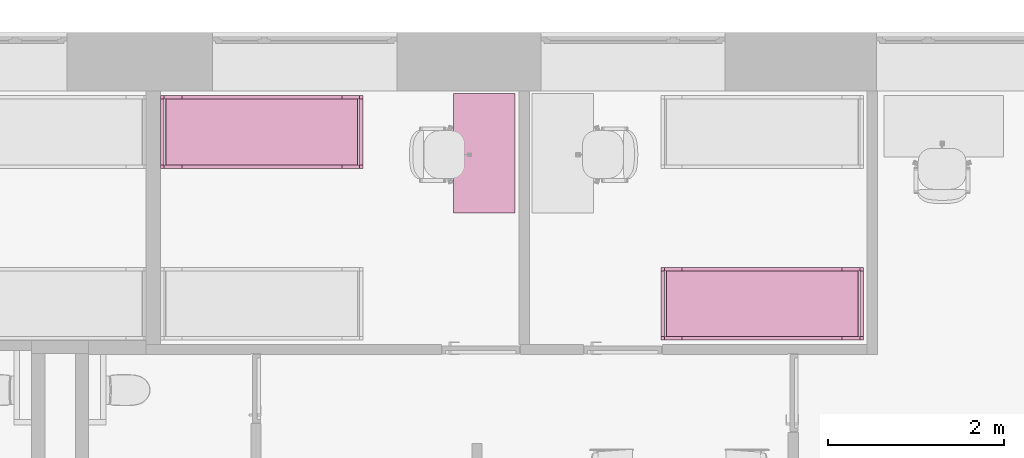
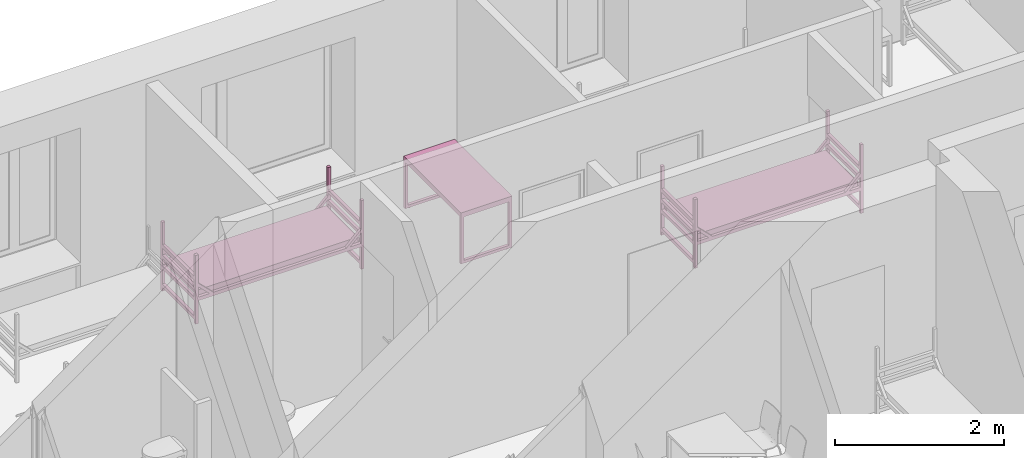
# One storey, part 38 of 46: 3 furnishings.
"""IFC2X3 building model written with IfcOpenShell, lengths in millimetres."""

from ifc_helpers import new_model, entity, si_unit, converted_unit, derived_unit, direction, frame, frame_2d, origin, origin_2d_with_axis, place, context, subcontext, project, spatial, polyline, circle_curve, parameter, trimmed, segment, composite_curve, rectangle, outline, extrude, faceted_brep, source, transform, mapped, material, material_list, type_object, type_shapes, element, save


model = new_model("IFC2X3")

# Units and contexts
model_context = context("Model", 3, precision=0.01, world=origin(), true_north=direction((6.12303176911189e-17, 1.0)))
body_context = subcontext(model_context, "Body", "Model", "MODEL_VIEW")
ifc_project = project(units=[si_unit("LENGTHUNIT", "METRE", prefix="MILLI"), si_unit("AREAUNIT", "SQUARE_METRE"), si_unit("VOLUMEUNIT", "CUBIC_METRE"), converted_unit("PLANEANGLEUNIT", "DEGREE", entity("IfcRatioMeasure", 0.0174532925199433), si_unit("PLANEANGLEUNIT", "RADIAN"), dimensions=[0, 0, 0, 0, 0, 0, 0]), si_unit("MASSUNIT", "GRAM", prefix="KILO"), derived_unit("MASSDENSITYUNIT", [(si_unit("MASSUNIT", "GRAM", prefix="KILO"), 1), (si_unit("LENGTHUNIT", "METRE"), -3)]), si_unit("TIMEUNIT", "SECOND"), si_unit("FREQUENCYUNIT", "HERTZ"), si_unit("THERMODYNAMICTEMPERATUREUNIT", "DEGREE_CELSIUS"), derived_unit("THERMALTRANSMITTANCEUNIT", [(si_unit("MASSUNIT", "GRAM", prefix="KILO"), 1), (si_unit("THERMODYNAMICTEMPERATUREUNIT", "KELVIN"), -1), (si_unit("TIMEUNIT", "SECOND"), -3)]), derived_unit("VOLUMETRICFLOWRATEUNIT", [(si_unit("LENGTHUNIT", "METRE"), 3), (si_unit("TIMEUNIT", "SECOND"), -1)]), si_unit("ELECTRICCURRENTUNIT", "AMPERE"), si_unit("ELECTRICVOLTAGEUNIT", "VOLT"), si_unit("POWERUNIT", "WATT"), si_unit("FORCEUNIT", "NEWTON", prefix="KILO"), si_unit("ILLUMINANCEUNIT", "LUX"), si_unit("LUMINOUSFLUXUNIT", "LUMEN"), si_unit("LUMINOUSINTENSITYUNIT", "CANDELA"), derived_unit("USERDEFINED", [(si_unit("MASSUNIT", "GRAM", prefix="KILO"), -1), (si_unit("LENGTHUNIT", "METRE"), -2), (si_unit("TIMEUNIT", "SECOND"), 3), (si_unit("LUMINOUSFLUXUNIT", "LUMEN"), 1)]), derived_unit("LINEARVELOCITYUNIT", [(si_unit("LENGTHUNIT", "METRE"), 1), (si_unit("TIMEUNIT", "SECOND"), -1)]), si_unit("PRESSUREUNIT", "PASCAL"), derived_unit("USERDEFINED", [(si_unit("LENGTHUNIT", "METRE"), -2), (si_unit("MASSUNIT", "GRAM", prefix="KILO"), 1), (si_unit("TIMEUNIT", "SECOND"), -2)]), derived_unit("LINEARFORCEUNIT", [(si_unit("MASSUNIT", "GRAM", prefix="KILO"), 1), (si_unit("LENGTHUNIT", "METRE"), 1), (si_unit("TIMEUNIT", "SECOND"), -2), (si_unit("LENGTHUNIT", "METRE"), -1)]), derived_unit("PLANARFORCEUNIT", [(si_unit("MASSUNIT", "GRAM", prefix="KILO"), 1), (si_unit("LENGTHUNIT", "METRE"), 1), (si_unit("TIMEUNIT", "SECOND"), -2), (si_unit("LENGTHUNIT", "METRE"), -2)])], contexts=[model_context])

# Site, building, storey, space
site_placement = place(None, origin())
site = spatial("IfcSite", under=ifc_project, at=site_placement, Name="Default", CompositionType="ELEMENT")
building_placement = place(site_placement, origin())
building = spatial("IfcBuilding", under=site, at=building_placement, Name="SMA ARH", CompositionType="ELEMENT")
storey_placement = place(building_placement, frame((0.0, 0.0, 9910.0)))
storey = spatial("IfcBuildingStorey", under=building, at=storey_placement, Name="4 Korrus", CompositionType="ELEMENT", Elevation=9909.9999999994)
space_1_placement = place(storey_placement, origin())
space_1 = spatial("IfcSpace", under=storey, at=space_1_placement, Name="4-30", CompositionType="ELEMENT", InteriorOrExteriorSpace="INTERNAL")

# Furnishing
ifc_material_1 = material(Name="Madrats")
furniture_type_1 = type_object("IfcFurnitureType", Name="Kasarmu voodi ühekordne 2308x830:Kasarmu voodi ühekordne 2308x830", material=ifc_material_1)
shared_shape_1 = source(origin(), body_context, "Body", "SweptSolid", [
    extrude(rectangle(XDim=39.9999999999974, YDim=750.000000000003, at=frame_2d((-1.35003119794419e-13, -2.8421709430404e-14), x_axis=(1.0, 0.0))), frame((1.68638457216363, -1226.7969571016, 55.0), z_axis=(0.0, 0.0, 1.0), x_axis=(0.0, -1.0, 0.0)), (0.0, 0.0, 1.0), 49.9999999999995),
    extrude(rectangle(XDim=39.9999999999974, YDim=750.000000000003, at=frame_2d((-1.35003119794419e-13, -2.8421709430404e-14), x_axis=(1.0, 0.0))), frame((1.68638457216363, -1226.7969571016, 325.0), z_axis=(0.0, 0.0, 1.0), x_axis=(0.0, -1.0, 0.0)), (0.0, 0.0, 1.0), 49.9999999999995),
    extrude(rectangle(XDim=39.9999999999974, YDim=750.000000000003, at=frame_2d((-1.35003119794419e-13, -2.8421709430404e-14), x_axis=(1.0, 0.0))), frame((1.68638457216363, -1226.7969571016, 475.0), z_axis=(0.0, 0.0, 1.0), x_axis=(0.0, -1.0, 0.0)), (0.0, 0.0, 1.0), 49.9999999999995),
    extrude(rectangle(XDim=39.9999999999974, YDim=750.000000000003, at=frame_2d((-1.35003119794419e-13, -2.8421709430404e-14), x_axis=(1.0, 0.0))), frame((1.68638457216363, -1226.7969571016, 625.0), z_axis=(0.0, 0.0, 1.0), x_axis=(0.0, -1.0, 0.0)), (0.0, 0.0, 1.0), 50.0000000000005),
    extrude(rectangle(XDim=39.9999999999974, YDim=750.000000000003, at=frame_2d((1.35003119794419e-13, -2.8421709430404e-14), x_axis=(1.0, 0.0))), frame((1.68638457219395, 1041.2030428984, 55.0), z_axis=(0.0, 0.0, 1.0), x_axis=(0.0, -1.0, 0.0)), (0.0, 0.0, 1.0), 50.0000000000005),
    extrude(rectangle(XDim=39.9999999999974, YDim=750.000000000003, at=frame_2d((1.35003119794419e-13, -2.8421709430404e-14), x_axis=(1.0, 0.0))), frame((1.68638457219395, 1041.2030428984, 325.0), z_axis=(0.0, 0.0, 1.0), x_axis=(0.0, -1.0, 0.0)), (0.0, 0.0, 1.0), 50.0000000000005),
    extrude(rectangle(XDim=39.9999999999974, YDim=750.000000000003, at=frame_2d((1.35003119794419e-13, -2.8421709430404e-14), x_axis=(1.0, 0.0))), frame((1.68638457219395, 1041.2030428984, 475.0), z_axis=(0.0, 0.0, 1.0), x_axis=(0.0, -1.0, 0.0)), (0.0, 0.0, 1.0), 50.0000000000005),
    extrude(rectangle(XDim=39.9999999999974, YDim=750.000000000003, at=frame_2d((1.35003119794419e-13, -2.8421709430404e-14), x_axis=(1.0, 0.0))), frame((1.68638457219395, 1041.2030428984, 625.0), z_axis=(0.0, 0.0, 1.0), x_axis=(0.0, -1.0, 0.0)), (0.0, 0.0, 1.0), 49.9999999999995),
    extrude(outline(composite_curve([segment(trimmed(circle_curve(frame_2d((1085.0, -40.0), x_axis=(1.0, 0.0)), 10.0), [parameter(270.0)], [parameter(0.0)], True, "PARAMETER"), True, "CONTINUOUS"), segment(polyline([(1095.0, -40.0), (1095.0, 40.0)]), True, "CONTINUOUS"), segment(trimmed(circle_curve(frame_2d((1085.0, 40.0), x_axis=(1.0, 0.0)), 10.0), [parameter(0.0)], [parameter(90.0000000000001)], True, "PARAMETER"), True, "CONTINUOUS"), segment(polyline([(1085.0, 50.0), (-1085.0, 50.0)]), True, "CONTINUOUS"), segment(trimmed(circle_curve(frame_2d((-1085.0, 40.0), x_axis=(1.0, 0.0)), 10.0), [parameter(90.0000000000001)], [parameter(180.0)], True, "PARAMETER"), True, "CONTINUOUS"), segment(polyline([(-1095.0, 40.0), (-1095.0, -40.0)]), True, "CONTINUOUS"), segment(trimmed(circle_curve(frame_2d((-1085.0, -40.0), x_axis=(1.0, 0.0)), 10.0), [parameter(180.0)], [parameter(270.0)], True, "PARAMETER"), True, "CONTINUOUS"), segment(polyline([(-1085.0, -50.0), (1085.0, -50.0)]), True, "CONTINUOUS")], self_intersect=False)), frame((-373.313615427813, -92.7969571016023, 405.0), z_axis=(1.0, 0.0, 0.0), x_axis=(0.0, -1.0, 0.0)), (0.0, 0.0, 1.0), 750.000000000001),
    extrude(outline(polyline([(-1114.0, -100.0), (1114.0, -100.0), (1114.0, -50.0), (961.59199141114, -50.0), (1114.0, 100.0), (1114.0, 150.0), (910.789321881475, -50.0), (-910.789321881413, -50.0), (-1114.0, 150.0), (-1114.0, 100.0), (-961.591991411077, -50.0), (-1114.0, -50.0), (-1114.0, -100.0)])), frame((-413.313615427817, -92.7969571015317, 430.0), z_axis=(1.0, 0.0, 0.0), x_axis=(0.0, 1.0, 0.0)), (0.0, 0.0, 1.0), 39.9999999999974),
    extrude(outline(polyline([(-1114.0, -100.0), (1114.0, -100.0), (1114.0, -50.0), (961.591991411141, -50.0), (1114.0, 100.0), (1114.0, 150.0), (910.789321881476, -50.0), (-910.789321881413, -50.0), (-1114.0, 150.0), (-1114.0, 100.0), (-961.591991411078, -50.0), (-1114.0, -50.0), (-1114.0, -100.0)])), frame((376.686384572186, -92.796957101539, 430.0), z_axis=(1.0, 0.0, 0.0), x_axis=(0.0, 1.0, 0.0)), (0.0, 0.0, 1.0), 39.9999999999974),
    extrude(rectangle(XDim=39.9999999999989, YDim=39.9999999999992, at=frame_2d((-6.75015598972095e-14, 0.0), x_axis=(1.0, 0.0))), frame((396.686384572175, -1226.79695710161, 0.0), z_axis=(0.0, 0.0, 1.0), x_axis=(0.0, 1.0, 0.0)), (0.0, 0.0, 1.0), 995.0),
    extrude(rectangle(XDim=39.9999999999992, YDim=39.9999999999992, at=frame_2d((-1.35003119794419e-13, 0.0), x_axis=(1.0, 0.0))), frame((396.686384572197, 1041.20304289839, 0.0), z_axis=(0.0, 0.0, 1.0), x_axis=(0.0, 1.0, 0.0)), (0.0, 0.0, 1.0), 995.0),
    extrude(rectangle(XDim=40.0000000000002, YDim=39.9999999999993, at=frame_2d((-1.35003119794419e-13, 0.0), x_axis=(1.0, 0.0))), frame((-393.313615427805, 1041.2030428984, 0.0), z_axis=(0.0, 0.0, 1.0), x_axis=(0.0, 1.0, 0.0)), (0.0, 0.0, 1.0), 995.0),
    extrude(rectangle(XDim=39.9999999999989, YDim=39.9999999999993, at=frame_2d((-6.75015598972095e-14, 0.0), x_axis=(1.0, 0.0))), frame((-393.313615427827, -1226.7969571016, 0.0), z_axis=(0.0, 0.0, 1.0), x_axis=(0.0, 1.0, 0.0)), (0.0, 0.0, 1.0), 995.0),
])
type_shapes(furniture_type_1, [shared_shape_1])
furnishing_1_placement = place(space_1_placement, frame((30319.2030428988, 10071.3136154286, 0.0), z_axis=(0.0, 0.0, 1.0), x_axis=(0.0, 1.0, 0.0)))
element("IfcFurnishingElement", 1, at=furnishing_1_placement, inside=space_1, type_object=furniture_type_1, material=ifc_material_1, Name="Kasarmu voodi ühekordne 2308x830:Kasarmu voodi ühekordne 2308x830", ObjectType="Kasarmu voodi ühekordne 2308x830:Kasarmu voodi ühekordne 2308x830", context=body_context, shape_type="MappedRepresentation", body=[
    mapped(shared_shape_1, transform((0.0, 0.0, 0.0), scale=1.0)),
])

# Space
space_2_placement = place(storey_placement, origin())
space_2 = spatial("IfcSpace", under=storey, at=space_2_placement, Name="4-29", CompositionType="ELEMENT", InteriorOrExteriorSpace="INTERNAL")

# Furnishings
furniture_type_2 = type_object("IfcFurnitureType", Name="Kasarmu voodi ühekordne 2308x830:Kasarmu voodi ühekordne 2308x830", material=ifc_material_1)
shared_shape_2 = source(origin(), body_context, "Body", "SweptSolid", [
    extrude(rectangle(XDim=750.000000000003, YDim=39.9999999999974, at=frame_2d((0.0, 1.35003119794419e-13), x_axis=(1.0, 0.0))), frame((1.68638457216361, 1226.7969571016, 55.0)), (0.0, 0.0, 1.0), 49.9999999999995),
    extrude(rectangle(XDim=750.000000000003, YDim=39.9999999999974, at=frame_2d((0.0, 1.35003119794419e-13), x_axis=(1.0, 0.0))), frame((1.68638457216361, 1226.7969571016, 325.0)), (0.0, 0.0, 1.0), 49.9999999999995),
    extrude(rectangle(XDim=750.000000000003, YDim=39.9999999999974, at=frame_2d((0.0, 1.35003119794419e-13), x_axis=(1.0, 0.0))), frame((1.68638457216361, 1226.7969571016, 475.0)), (0.0, 0.0, 1.0), 49.9999999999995),
    extrude(rectangle(XDim=750.000000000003, YDim=39.9999999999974, at=frame_2d((0.0, 1.35003119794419e-13), x_axis=(1.0, 0.0))), frame((1.68638457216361, 1226.7969571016, 625.0)), (0.0, 0.0, 1.0), 50.0000000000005),
    extrude(rectangle(XDim=750.000000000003, YDim=39.9999999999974, at=origin_2d_with_axis()), frame((1.68638457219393, -1041.2030428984, 55.0)), (0.0, 0.0, 1.0), 50.0000000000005),
    extrude(rectangle(XDim=750.000000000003, YDim=39.9999999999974, at=origin_2d_with_axis()), frame((1.68638457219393, -1041.2030428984, 325.0)), (0.0, 0.0, 1.0), 50.0000000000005),
    extrude(rectangle(XDim=750.000000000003, YDim=39.9999999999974, at=origin_2d_with_axis()), frame((1.68638457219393, -1041.2030428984, 475.0)), (0.0, 0.0, 1.0), 50.0000000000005),
    extrude(rectangle(XDim=750.000000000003, YDim=39.9999999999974, at=origin_2d_with_axis()), frame((1.68638457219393, -1041.2030428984, 625.0)), (0.0, 0.0, 1.0), 49.9999999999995),
    extrude(outline(composite_curve([segment(polyline([(-1085.0, -50.0), (1085.0, -50.0)]), True, "CONTINUOUS"), segment(trimmed(circle_curve(frame_2d((1085.0, -40.0), x_axis=(-1.0, 0.0)), 10.0), [parameter(90.0000000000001)], [parameter(180.0)], True, "PARAMETER"), True, "CONTINUOUS"), segment(polyline([(1095.0, -40.0), (1095.0, 40.0)]), True, "CONTINUOUS"), segment(trimmed(circle_curve(frame_2d((1085.0, 40.0), x_axis=(-1.0, 0.0)), 10.0), [parameter(180.0)], [parameter(270.0)], True, "PARAMETER"), True, "CONTINUOUS"), segment(polyline([(1085.0, 50.0), (-1085.0, 50.0)]), True, "CONTINUOUS"), segment(trimmed(circle_curve(frame_2d((-1085.0, 40.0), x_axis=(-1.0, 0.0)), 10.0), [parameter(270.0)], [parameter(0.0)], True, "PARAMETER"), True, "CONTINUOUS"), segment(polyline([(-1095.0, 40.0), (-1095.0, -40.0)]), True, "CONTINUOUS"), segment(trimmed(circle_curve(frame_2d((-1085.0, -40.0), x_axis=(-1.0, 0.0)), 10.0), [parameter(0.0)], [parameter(90.0000000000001)], True, "PARAMETER"), True, "CONTINUOUS")], self_intersect=False)), frame((-373.313615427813, 92.7969571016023, 405.0), z_axis=(1.0, 0.0, 0.0), x_axis=(0.0, -1.0, 0.0)), (0.0, 0.0, 1.0), 750.000000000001),
    extrude(outline(polyline([(-100.0, -1114.0), (-50.0, -1114.0), (-50.0, -961.591991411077), (100.0, -1114.0), (150.0, -1114.0), (-50.0, -910.789321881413), (-50.0, 910.789321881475), (150.0, 1114.0), (100.0, 1114.0), (-50.0, 961.591991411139), (-50.0, 1114.0), (-100.0, 1114.0), (-100.0, -1114.0)])), frame((-413.313615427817, 92.7969571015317, 430.0), z_axis=(1.0, 0.0, 0.0), x_axis=(0.0, 0.0, 1.0)), (0.0, 0.0, 1.0), 39.9999999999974),
    extrude(outline(polyline([(-100.0, -1114.0), (-50.0, -1114.0), (-50.0, -961.591991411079), (100.0, -1114.0), (150.0, -1114.0), (-50.0, -910.789321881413), (-50.0, 910.789321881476), (150.0, 1114.0), (100.0, 1114.0), (-50.0, 961.591991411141), (-50.0, 1114.0), (-100.0, 1114.0), (-100.0, -1114.0)])), frame((376.686384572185, 92.796957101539, 430.0), z_axis=(1.0, 0.0, 0.0), x_axis=(0.0, 0.0, 1.0)), (0.0, 0.0, 1.0), 39.9999999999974),
    extrude(rectangle(XDim=39.9999999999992, YDim=39.9999999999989, at=frame_2d((0.0, -6.75015598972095e-14), x_axis=(1.0, 0.0))), frame((396.686384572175, 1226.79695710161, 0.0), z_axis=(0.0, 0.0, 1.0), x_axis=(-1.0, 0.0, 0.0)), (0.0, 0.0, 1.0), 995.0),
    extrude(rectangle(XDim=39.9999999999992, YDim=39.9999999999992, at=origin_2d_with_axis()), frame((396.686384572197, -1041.20304289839, 0.0), z_axis=(0.0, 0.0, 1.0), x_axis=(-1.0, 0.0, 0.0)), (0.0, 0.0, 1.0), 995.0),
    extrude(rectangle(XDim=39.9999999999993, YDim=40.0000000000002, at=origin_2d_with_axis()), frame((-393.313615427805, -1041.2030428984, 0.0), z_axis=(0.0, 0.0, 1.0), x_axis=(-1.0, 0.0, 0.0)), (0.0, 0.0, 1.0), 995.0),
    extrude(rectangle(XDim=39.9999999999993, YDim=39.9999999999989, at=frame_2d((0.0, -6.75015598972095e-14), x_axis=(1.0, 0.0))), frame((-393.313615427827, 1226.7969571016, 0.0), z_axis=(0.0, 0.0, 1.0), x_axis=(-1.0, 0.0, 0.0)), (0.0, 0.0, 1.0), 995.0),
])
type_shapes(furniture_type_2, [shared_shape_2])
furnishing_2_placement = place(space_2_placement, frame((24803.796957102, 12030.0, 0.0), z_axis=(0.0, 0.0, 1.0), x_axis=(0.0, 1.0, 0.0)))
element("IfcFurnishingElement", 2, at=furnishing_2_placement, inside=space_2, type_object=furniture_type_2, material=ifc_material_1, Name="Kasarmu voodi ühekordne 2308x830:Kasarmu voodi ühekordne 2308x830", ObjectType="Kasarmu voodi ühekordne 2308x830:Kasarmu voodi ühekordne 2308x830", context=body_context, shape_type="MappedRepresentation", body=[
    mapped(shared_shape_2, transform((0.0, 0.0, 0.0), scale=1.0)),
])
ifc_material_2 = material(Name="<Unnamed>")
ifc_material_list = material_list([ifc_material_2, ifc_material_2])
furniture_type_3 = type_object("IfcFurnitureType", Name="kirjutuslaud 1360x700mm:kirjutuslaud 1360x700mm", material=ifc_material_list)
shared_shape_3 = source(origin(), body_context, "Body", "Brep", [
    faceted_brep([(680.0, 350.0, 720.0), (680.0, 350.0, 750.0), (680.0, -350.0, 750.0), (680.0, -350.0, 720.0), (-680.0, 350.0, 720.0), (-680.0, -350.0, 720.0), (-680.0, -350.0, 750.0), (-680.0, 350.0, 750.0)], [[[0, 1, 2, 3]], [[4, 5, 6, 7]], [[3, 5, 4, 0]], [[2, 6, 5, 3]], [[1, 7, 6, 2]], [[0, 4, 7, 1]]]),
    faceted_brep([(-640.0, 310.0, 680.0), (-640.0, 310.0, 720.0), (-640.0, -310.0, 720.0), (-640.0, -310.0, 680.0), (-680.0, 350.0, 720.0), (-680.0, 350.0, 10.0), (-680.0, -350.0, 10.0), (-680.0, -350.0, 720.0), (-680.0, -310.0, 680.0), (-680.0, -310.0, 50.0), (-680.0, 310.0, 50.0), (-680.0, 310.0, 680.0), (680.0, 350.0, 720.0), (680.0, 350.0, 10.0), (640.0, 350.0, 10.0), (640.0, 350.0, 680.0), (-640.0, 350.0, 680.0), (-640.0, 350.0, 10.0), (-640.0, -350.0, 10.0), (-640.0, -350.0, 680.0), (640.0, -350.0, 680.0), (640.0, -350.0, 10.0), (680.0, -350.0, 10.0), (680.0, -350.0, 720.0), (640.0, 310.0, 720.0), (640.0, -310.0, 720.0), (-640.0, -310.0, 50.0), (-640.0, 310.0, 50.0), (640.0, -310.0, 680.0), (640.0, 310.0, 680.0), (680.0, -310.0, 680.0), (680.0, 310.0, 680.0), (680.0, 310.0, 50.0), (680.0, -310.0, 50.0), (640.0, -310.0, 50.0), (640.0, 310.0, 50.0)], [[[0, 1, 2, 3]], [[4, 5, 6, 7], [8, 9, 10, 11]], [[4, 12, 13, 14, 15, 16, 17, 5]], [[18, 6, 5, 17]], [[6, 18, 19, 20, 21, 22, 23, 7]], [[2, 1, 24, 25], [23, 12, 4, 7]], [[26, 9, 8, 3]], [[27, 10, 9, 26]], [[0, 11, 10, 27]], [[3, 8, 11, 0]], [[28, 20, 19, 3]], [[25, 28, 3, 2]], [[1, 0, 29, 24]], [[12, 23, 22, 13], [30, 31, 32, 33]], [[21, 20, 28, 34, 35, 29, 15, 14]], [[22, 21, 14, 13]], [[33, 34, 28, 30]], [[32, 35, 34, 33]], [[31, 29, 35, 32]], [[30, 28, 29, 31]], [[28, 25, 24, 29]], [[15, 29, 0, 16]], [[17, 16, 0, 27, 26, 3, 19, 18]]], outer=[[True], [True, False], [True], [True], [True], [False, True], [True], [True], [True], [True], [True], [True], [True], [True, False], [True], [True], [True], [True], [True], [True], [True], [True], [True]]),
    faceted_brep([(-655.964885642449, 270.466136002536, 0.0), (-659.847171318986, 269.955023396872, 0.0), (-663.729456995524, 270.466136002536, 0.0), (-667.347171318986, 271.964642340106, 0.0), (-670.453773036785, 274.348421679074, 0.0), (-672.837552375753, 277.455023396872, 0.0), (-674.336058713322, 281.072737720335, 0.0), (-674.847171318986, 284.955023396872, 0.0), (-674.336058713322, 288.83730907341, 0.0), (-672.837552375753, 292.455023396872, 0.0), (-670.453773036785, 295.561625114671, 0.0), (-667.347171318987, 297.945404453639, 0.0), (-663.729456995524, 299.443910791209, 0.0), (-659.847171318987, 299.955023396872, 0.0), (-655.964885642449, 299.443910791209, 0.0), (-652.347171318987, 297.945404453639, 0.0), (-649.240569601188, 295.561625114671, 0.0), (-646.85679026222, 292.455023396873, 0.0), (-645.35828392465, 288.83730907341, 0.0), (-644.847171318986, 284.955023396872, 0.0), (-645.35828392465, 281.072737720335, 0.0), (-646.85679026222, 277.455023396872, 0.0), (-649.240569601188, 274.348421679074, 0.0), (-652.347171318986, 271.964642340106, 0.0), (-649.240569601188, 295.561625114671, 10.0), (-652.347171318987, 297.945404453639, 10.0), (-655.964885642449, 299.443910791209, 10.0), (-659.847171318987, 299.955023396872, 10.0), (-663.729456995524, 299.443910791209, 10.0), (-667.347171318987, 297.945404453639, 10.0), (-670.453773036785, 295.561625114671, 10.0), (-672.837552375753, 292.455023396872, 10.0), (-674.336058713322, 288.83730907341, 10.0), (-674.847171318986, 284.955023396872, 10.0), (-674.336058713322, 281.072737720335, 10.0), (-672.837552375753, 277.455023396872, 10.0), (-670.453773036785, 274.348421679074, 10.0), (-667.347171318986, 271.964642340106, 10.0), (-663.729456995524, 270.466136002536, 10.0), (-659.847171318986, 269.955023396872, 10.0), (-655.964885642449, 270.466136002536, 10.0), (-652.347171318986, 271.964642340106, 10.0), (-649.240569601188, 274.348421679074, 10.0), (-646.85679026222, 277.455023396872, 10.0), (-645.35828392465, 281.072737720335, 10.0), (-644.847171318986, 284.955023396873, 10.0), (-645.35828392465, 288.83730907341, 10.0), (-646.85679026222, 292.455023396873, 10.0)], [[[0, 1, 2, 3, 4, 5, 6, 7, 8, 9, 10, 11, 12, 13, 14, 15, 16, 17, 18, 19, 20, 21, 22, 23]], [[24, 25, 26, 27, 28, 29, 30, 31, 32, 33, 34, 35, 36, 37, 38, 39, 40, 41, 42, 43, 44, 45, 46, 47]], [[7, 33, 32, 8]], [[8, 32, 31, 9]], [[11, 10, 30, 29]], [[30, 10, 9, 31]], [[12, 11, 29, 28]], [[12, 28, 27, 13]], [[13, 27, 26, 14]], [[14, 26, 25, 15]], [[17, 16, 24, 47]], [[24, 16, 15, 25]], [[18, 17, 47, 46]], [[18, 46, 45, 19]], [[19, 45, 44, 20]], [[20, 44, 43, 21]], [[23, 22, 42, 41]], [[42, 22, 21, 43]], [[0, 23, 41, 40]], [[0, 40, 39, 1]], [[1, 39, 38, 2]], [[2, 38, 37, 3]], [[5, 4, 36, 35]], [[36, 4, 3, 37]], [[6, 5, 35, 34]], [[6, 34, 33, 7]]]),
    faceted_brep([(-649.240569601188, -274.348421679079, 10.0), (-652.347171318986, -271.964642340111, 10.0), (-655.964885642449, -270.466136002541, 10.0), (-659.847171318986, -269.955023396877, 10.0), (-663.729456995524, -270.466136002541, 10.0), (-667.347171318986, -271.964642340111, 10.0), (-670.453773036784, -274.348421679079, 10.0), (-672.837552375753, -277.455023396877, 10.0), (-674.336058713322, -281.07273772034, 10.0), (-674.847171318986, -284.955023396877, 10.0), (-674.336058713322, -288.837309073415, 10.0), (-672.837552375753, -292.455023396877, 10.0), (-670.453773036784, -295.561625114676, 10.0), (-667.347171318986, -297.945404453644, 10.0), (-663.729456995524, -299.443910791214, 10.0), (-659.847171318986, -299.955023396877, 10.0), (-655.964885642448, -299.443910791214, 10.0), (-652.347171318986, -297.945404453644, 10.0), (-649.240569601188, -295.561625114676, 10.0), (-646.85679026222, -292.455023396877, 10.0), (-645.35828392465, -288.837309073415, 10.0), (-644.847171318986, -284.955023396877, 10.0), (-645.35828392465, -281.07273772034, 10.0), (-646.85679026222, -277.455023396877, 10.0), (-659.847171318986, -299.955023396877, 0.0), (-663.729456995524, -299.443910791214, 0.0), (-667.347171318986, -297.945404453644, 0.0), (-670.453773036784, -295.561625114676, 0.0), (-672.837552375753, -292.455023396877, 0.0), (-674.336058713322, -288.837309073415, 0.0), (-674.847171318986, -284.955023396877, 0.0), (-674.336058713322, -281.07273772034, 0.0), (-672.837552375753, -277.455023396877, 0.0), (-670.453773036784, -274.348421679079, 0.0), (-667.347171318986, -271.964642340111, 0.0), (-663.729456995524, -270.466136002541, 0.0), (-659.847171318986, -269.955023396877, 0.0), (-655.964885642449, -270.466136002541, 0.0), (-652.347171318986, -271.964642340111, 0.0), (-649.240569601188, -274.348421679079, 0.0), (-646.85679026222, -277.455023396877, 0.0), (-645.35828392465, -281.07273772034, 0.0), (-644.847171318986, -284.955023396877, 0.0), (-645.35828392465, -288.837309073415, 0.0), (-646.85679026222, -292.455023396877, 0.0), (-649.240569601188, -295.561625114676, 0.0), (-652.347171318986, -297.945404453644, 0.0), (-655.964885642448, -299.443910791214, 0.0)], [[[0, 1, 2, 3, 4, 5, 6, 7, 8, 9, 10, 11, 12, 13, 14, 15, 16, 17, 18, 19, 20, 21, 22, 23]], [[24, 25, 26, 27, 28, 29, 30, 31, 32, 33, 34, 35, 36, 37, 38, 39, 40, 41, 42, 43, 44, 45, 46, 47]], [[30, 9, 8, 31]], [[31, 8, 7, 32]], [[34, 33, 6, 5]], [[6, 33, 32, 7]], [[35, 34, 5, 4]], [[35, 4, 3, 36]], [[36, 3, 2, 37]], [[37, 2, 1, 38]], [[40, 39, 0, 23]], [[0, 39, 38, 1]], [[41, 40, 23, 22]], [[41, 22, 21, 42]], [[42, 21, 20, 43]], [[43, 20, 19, 44]], [[46, 45, 18, 17]], [[18, 45, 44, 19]], [[47, 46, 17, 16]], [[47, 16, 15, 24]], [[24, 15, 14, 25]], [[25, 14, 13, 26]], [[28, 27, 12, 11]], [[12, 27, 26, 13]], [[29, 28, 11, 10]], [[29, 10, 9, 30]]]),
    faceted_brep([(664.035114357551, 270.466136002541, 0.0), (660.152828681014, 269.955023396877, 0.0), (656.270543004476, 270.466136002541, 0.0), (652.652828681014, 271.96464234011, 0.0), (649.546226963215, 274.348421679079, 0.0), (647.162447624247, 277.455023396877, 0.0), (645.663941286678, 281.072737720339, 0.0), (645.152828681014, 284.955023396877, 0.0), (645.663941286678, 288.837309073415, 0.0), (647.162447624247, 292.455023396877, 0.0), (649.546226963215, 295.561625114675, 0.0), (652.652828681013, 297.945404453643, 0.0), (656.270543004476, 299.443910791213, 0.0), (660.152828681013, 299.955023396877, 0.0), (664.035114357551, 299.443910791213, 0.0), (667.652828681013, 297.945404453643, 0.0), (670.759430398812, 295.561625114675, 0.0), (673.14320973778, 292.455023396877, 0.0), (674.64171607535, 288.837309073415, 0.0), (675.152828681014, 284.955023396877, 0.0), (674.64171607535, 281.072737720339, 0.0), (673.14320973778, 277.455023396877, 0.0), (670.759430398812, 274.348421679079, 0.0), (667.652828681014, 271.96464234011, 0.0), (670.759430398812, 295.561625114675, 10.0), (667.652828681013, 297.945404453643, 10.0), (664.035114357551, 299.443910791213, 10.0), (660.152828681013, 299.955023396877, 10.0), (656.270543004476, 299.443910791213, 10.0), (652.652828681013, 297.945404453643, 10.0), (649.546226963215, 295.561625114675, 10.0), (647.162447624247, 292.455023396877, 10.0), (645.663941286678, 288.837309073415, 10.0), (645.152828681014, 284.955023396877, 10.0), (645.663941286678, 281.072737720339, 10.0), (647.162447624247, 277.455023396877, 10.0), (649.546226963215, 274.348421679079, 10.0), (652.652828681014, 271.96464234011, 10.0), (656.270543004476, 270.466136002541, 10.0), (660.152828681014, 269.955023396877, 10.0), (664.035114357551, 270.466136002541, 10.0), (667.652828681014, 271.96464234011, 10.0), (670.759430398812, 274.348421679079, 10.0), (673.14320973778, 277.455023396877, 10.0), (674.64171607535, 281.072737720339, 10.0), (675.152828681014, 284.955023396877, 10.0), (674.64171607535, 288.837309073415, 10.0), (673.14320973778, 292.455023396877, 10.0)], [[[0, 1, 2, 3, 4, 5, 6, 7, 8, 9, 10, 11, 12, 13, 14, 15, 16, 17, 18, 19, 20, 21, 22, 23]], [[24, 25, 26, 27, 28, 29, 30, 31, 32, 33, 34, 35, 36, 37, 38, 39, 40, 41, 42, 43, 44, 45, 46, 47]], [[7, 33, 32, 8]], [[8, 32, 31, 9]], [[11, 10, 30, 29]], [[30, 10, 9, 31]], [[12, 11, 29, 28]], [[12, 28, 27, 13]], [[13, 27, 26, 14]], [[14, 26, 25, 15]], [[17, 16, 24, 47]], [[24, 16, 15, 25]], [[18, 17, 47, 46]], [[18, 46, 45, 19]], [[19, 45, 44, 20]], [[20, 44, 43, 21]], [[23, 22, 42, 41]], [[42, 22, 21, 43]], [[0, 23, 41, 40]], [[0, 40, 39, 1]], [[1, 39, 38, 2]], [[2, 38, 37, 3]], [[5, 4, 36, 35]], [[36, 4, 3, 37]], [[6, 5, 35, 34]], [[6, 34, 33, 7]]]),
    faceted_brep([(670.759430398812, -274.348421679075, 10.0), (667.652828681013, -271.964642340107, 10.0), (664.035114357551, -270.466136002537, 10.0), (660.152828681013, -269.955023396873, 10.0), (656.270543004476, -270.466136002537, 10.0), (652.652828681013, -271.964642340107, 10.0), (649.546226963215, -274.348421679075, 10.0), (647.162447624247, -277.455023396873, 10.0), (645.663941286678, -281.072737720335, 10.0), (645.152828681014, -284.955023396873, 10.0), (645.663941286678, -288.837309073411, 10.0), (647.162447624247, -292.455023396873, 10.0), (649.546226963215, -295.561625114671, 10.0), (652.652828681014, -297.94540445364, 10.0), (656.270543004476, -299.443910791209, 10.0), (660.152828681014, -299.955023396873, 10.0), (664.035114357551, -299.443910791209, 10.0), (667.652828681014, -297.94540445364, 10.0), (670.759430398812, -295.561625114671, 10.0), (673.14320973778, -292.455023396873, 10.0), (674.64171607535, -288.837309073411, 10.0), (675.152828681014, -284.955023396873, 10.0), (674.64171607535, -281.072737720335, 10.0), (673.14320973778, -277.455023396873, 10.0), (660.152828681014, -299.955023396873, 0.0), (656.270543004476, -299.443910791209, 0.0), (652.652828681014, -297.94540445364, 0.0), (649.546226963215, -295.561625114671, 0.0), (647.162447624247, -292.455023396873, 0.0), (645.663941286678, -288.837309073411, 0.0), (645.152828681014, -284.955023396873, 0.0), (645.663941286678, -281.072737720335, 0.0), (647.162447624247, -277.455023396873, 0.0), (649.546226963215, -274.348421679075, 0.0), (652.652828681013, -271.964642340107, 0.0), (656.270543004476, -270.466136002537, 0.0), (660.152828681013, -269.955023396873, 0.0), (664.035114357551, -270.466136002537, 0.0), (667.652828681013, -271.964642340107, 0.0), (670.759430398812, -274.348421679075, 0.0), (673.14320973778, -277.455023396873, 0.0), (674.64171607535, -281.072737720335, 0.0), (675.152828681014, -284.955023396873, 0.0), (674.64171607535, -288.837309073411, 0.0), (673.14320973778, -292.455023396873, 0.0), (670.759430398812, -295.561625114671, 0.0), (667.652828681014, -297.94540445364, 0.0), (664.035114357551, -299.443910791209, 0.0)], [[[0, 1, 2, 3, 4, 5, 6, 7, 8, 9, 10, 11, 12, 13, 14, 15, 16, 17, 18, 19, 20, 21, 22, 23]], [[24, 25, 26, 27, 28, 29, 30, 31, 32, 33, 34, 35, 36, 37, 38, 39, 40, 41, 42, 43, 44, 45, 46, 47]], [[30, 9, 8, 31]], [[31, 8, 7, 32]], [[34, 33, 6, 5]], [[6, 33, 32, 7]], [[35, 34, 5, 4]], [[35, 4, 3, 36]], [[36, 3, 2, 37]], [[37, 2, 1, 38]], [[40, 39, 0, 23]], [[0, 39, 38, 1]], [[41, 40, 23, 22]], [[41, 22, 21, 42]], [[42, 21, 20, 43]], [[43, 20, 19, 44]], [[46, 45, 18, 17]], [[18, 45, 44, 19]], [[47, 46, 17, 16]], [[47, 16, 15, 24]], [[24, 15, 14, 25]], [[25, 14, 13, 26]], [[28, 27, 12, 11]], [[12, 27, 26, 13]], [[29, 28, 11, 10]], [[29, 10, 9, 30]]]),
])
type_shapes(furniture_type_3, [shared_shape_3])
furnishing_3_placement = place(space_2_placement, frame((27247.0, 11790.0, 0.0), z_axis=(0.0, 0.0, 1.0), x_axis=(0.0, 1.0, 0.0)))
element("IfcFurnishingElement", 3, at=furnishing_3_placement, inside=space_2, type_object=furniture_type_3, Name="kirjutuslaud 1360x700mm:kirjutuslaud 1360x700mm", ObjectType="kirjutuslaud 1360x700mm:kirjutuslaud 1360x700mm", context=body_context, shape_type="MappedRepresentation", body=[
    mapped(shared_shape_3, transform((0.0, 0.0, 0.0), scale=1.0)),
])

save(model, "model.ifc")
